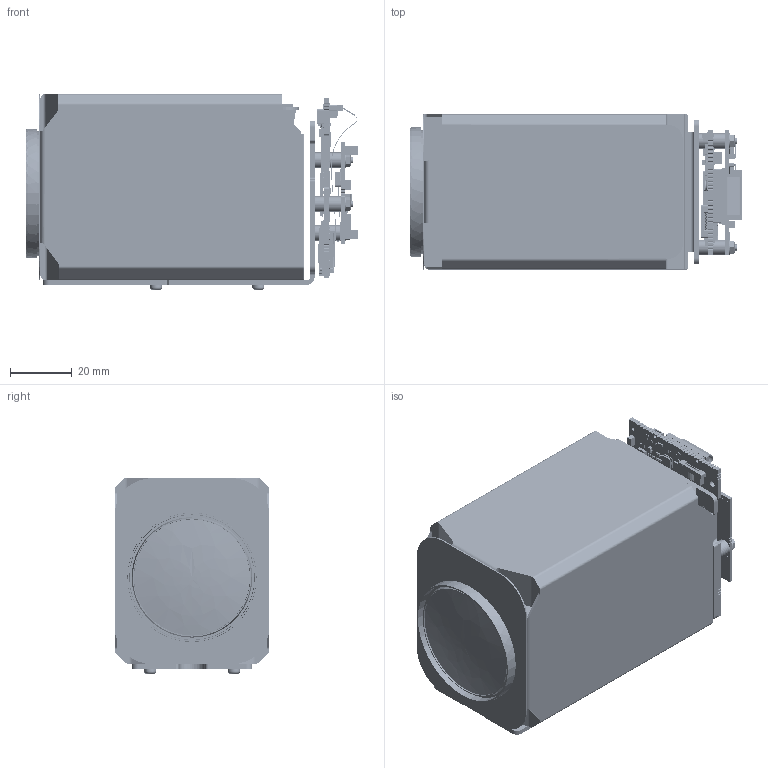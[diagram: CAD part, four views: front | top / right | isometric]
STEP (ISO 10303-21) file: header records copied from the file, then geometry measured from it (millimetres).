
FILE_DESCRIPTION( ( 'Unknown' ), '1' );
FILE_NAME( 'Q:/2003/Product3DCADModels/mm-ap29c01-0165-0101.stp', 'Unknown', ( 'Unknown' ), ( 'Unknown' ), 'PSStep 17.0.49', 'Unknown', ' ' );
FILE_SCHEMA( ( 'AUTOMOTIVE_DESIGN { 1 0 10303 214 1 1 1 1 }' ) );
Length unit declared in the file: millimetre
Products named in the file (574): Lead-4; Open_CASCADE_STEP_translator_6.8_1.2.1; Lead-1; Lead; Lead-2; Lead-7; Lead-6; Lead-3; Lead-5; Terminal; Open_CASCADE_STEP_translator_6.8_3.1.1; Open_CASCADE_STEP_translator_6.8_3.1.2; Body; Open_CASCADE_STEP_translator_6.8_17.2.1; Mid_Body; Open_CASCADE_STEP_translator_6.8_3.2.1; FRAME_RUG0010A; Open CASCADE STEP translator 6.8 16.15.1.1.1; Open CASCADE STEP translator 6.8 16.15.1.1.2; Open CASCADE STEP translator 6.8 16.15.1.1.3; Open CASCADE STEP translator 6.8 16.15.1.1.4; Open CASCADE STEP translator 6.8 16.15.1.1.5; Open CASCADE STEP translator 6.8 16.15.1.1.6; Open CASCADE STEP translator 6.8 16.15.1.1.7; Open CASCADE STEP translator 6.8 16.15.1.1.8; Open CASCADE STEP translator 6.8 16.15.1.1.9; Open CASCADE STEP translator 6.8 16.15.1.1.10; 5993357248; body; DEFAULT; DEFAULT-1; DEFAULT-2; Pin_Shape; Open_CASCADE_STEP_translator_6.8_17.4.1; User_Library-UFBGA-6; BGA_11mil_Ball; UFBGA1.0X1.5mm; Open CASCADE STEP translator 6.8 16.1.1; Open CASCADE STEP translator 6.8 16.1.1.1; User_Library-IndLQS_4012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
Assembly tree (1457 placements, depth 7):
  Assem1
    G-806-048H  x4
    G-875-322T  x3
    G-977-016Z  x3
    G-161-906B  x3
    flexi-01
    EV9520L
    bracket-assy
      bracket-0378-02
      G-373-916V  x3
      G-513-075C  x3
    mm-ap29c04-0118-0201
      Board
        Open CASCADE STEP translator 6.8 8.1.1
          Open CASCADE STEP translator 6.8 8.1.1.1
      Z14
        6755408912
          Extruded
      Z10
        L3-838
      L4
        User_Library-CM0805
      R3
        6478572848
          Extruded
      C1
        6682828912  x2
          Extruded
        6682828672
          Extruded
      C2
        6682828912  x2
          Extruded
        6682828672
          Extruded
      C3
        6682828912  x2
          Extruded
        6682828672
          Extruded
      C4
        6682828912  x2
          Extruded
        6682828672
          Extruded
      J2
        BM09B-SRSS-TB
      J3
        BM04B-SRSS-TB
      L1
        SM453229-231N7Y
        SM453229-231N7Y
        SM453229-231N7Y
        SM453229-231N7Y
        SM453229-231N7Y
        SM453229-231N7Y
        SM453229-231N7Y
        SM453229-231N7Y
        SM453229-231N7Y
        SM453229-231N7Y
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Bounding box: 107.17 x 50 x 63.14 mm (x, y, z)
Volume: 268018.8 mm3; surface area: 59859.4 mm2
Topology: 1067 solids, 1068 shells, 16445 faces, 42018 edges, 27580 vertices
Faces by surface type: plane 13981, cylinder 2093, sphere 112, cone 86, torus 64, revolution 56, bspline 53
Full cylindrical faces by diameter (mm): 0.041 x1, 0.14 x1, 0.15 x1, 0.2 x2, 0.25 x1, 0.4 x2, 0.5 x1, 0.519 x1, 1 x1, 1.1 x1, 1.12 x2, 1.2 x2, 1.3 x2, 1.567 x3, 1.729 x8, 2 x9, 2.2 x47, 3.88 x4, 5 x9, 6 x1, 6.2 x2, 40.2 x1, 41.7 x1, 44 x1
Entity records: 307970 total; most frequent: CARTESIAN_POINT 42979, DIRECTION 40655, ORIENTED_EDGE 39339, EDGE_CURVE 19670, LINE 16201, VECTOR 16201, VERTEX_POINT 13030, AXIS2_PLACEMENT_3D 12220
